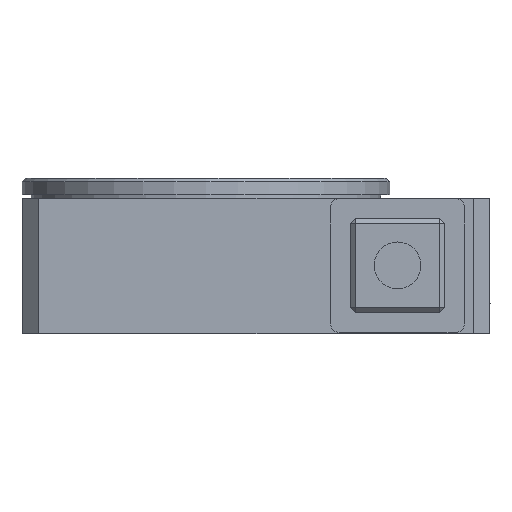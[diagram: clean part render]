
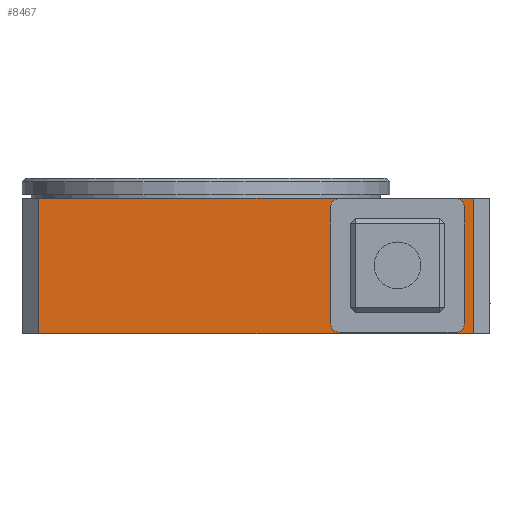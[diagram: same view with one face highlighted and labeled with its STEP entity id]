
A CAD part, front view. The second image highlights one B-rep face of the part: STEP entity #8467.
In plain terms, the highlighted planar face has unit normal (0, -1, 0).
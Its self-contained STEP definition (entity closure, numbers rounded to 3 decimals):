
#246 = EDGE_LOOP ( 'NONE', ( #8520, #11084, #10882, #2927, #10871, #4184, #8387, #12867 ) ) ;
#279 = CARTESIAN_POINT ( 'NONE',  ( 229.724, -176.879, 81. ) ) ;
#308 = CARTESIAN_POINT ( 'NONE',  ( 144.424, -176.879, 5.9 ) ) ;
#465 = DIRECTION ( 'NONE',  ( 0., 0., -1. ) ) ;
#529 = DIRECTION ( 'NONE',  ( 0., 1., 0. ) ) ;
#624 = AXIS2_PLACEMENT_3D ( 'NONE', #10790, #8812, #9809 ) ;
#981 = VERTEX_POINT ( 'NONE', #1900 ) ;
#1049 = CIRCLE ( 'NONE', #4071, 5. ) ;
#1201 = LINE ( 'NONE', #6272, #9982 ) ;
#1239 = LINE ( 'NONE', #2351, #10512 ) ;
#1596 = DIRECTION ( 'NONE',  ( 0., 0., 1. ) ) ;
#1661 = AXIS2_PLACEMENT_3D ( 'NONE', #9654, #2602, #1596 ) ;
#1775 = CARTESIAN_POINT ( 'NONE',  ( 224.424, -176.879, 75.9 ) ) ;
#1900 = CARTESIAN_POINT ( 'NONE',  ( -30.276, -176.879, 0. ) ) ;
#1911 = EDGE_CURVE ( 'NONE', #9959, #8205, #1049, .T. ) ;
#1984 = VECTOR ( 'NONE', #3556, 1000. ) ;
#2091 = EDGE_CURVE ( 'NONE', #9780, #9959, #3101, .T. ) ;
#2172 = CARTESIAN_POINT ( 'NONE',  ( 239.724, -176.879, 0. ) ) ;
#2263 = VERTEX_POINT ( 'NONE', #9229 ) ;
#2351 = CARTESIAN_POINT ( 'NONE',  ( 229.724, -176.879, 93. ) ) ;
#2412 = EDGE_CURVE ( 'NONE', #2428, #8202, #8283, .T. ) ;
#2428 = VERTEX_POINT ( 'NONE', #1775 ) ;
#2433 = LINE ( 'NONE', #8684, #4329 ) ;
#2461 = DIRECTION ( 'NONE',  ( 0., 0., 1. ) ) ;
#2602 = DIRECTION ( 'NONE',  ( 0., -1., 0. ) ) ;
#2678 = FACE_BOUND ( 'NONE', #246, .T. ) ;
#2752 = CIRCLE ( 'NONE', #624, 5. ) ;
#2772 = VECTOR ( 'NONE', #7291, 1000. ) ;
#2838 = EDGE_CURVE ( 'NONE', #8407, #3805, #6381, .T. ) ;
#2927 = ORIENTED_EDGE ( 'NONE', *, *, #2091, .F. ) ;
#3101 = LINE ( 'NONE', #4593, #10810 ) ;
#3197 = EDGE_CURVE ( 'NONE', #8407, #981, #1201, .T. ) ;
#3436 = LINE ( 'NONE', #7768, #12885 ) ;
#3556 = DIRECTION ( 'NONE',  ( 1., 0., 0. ) ) ;
#3586 = DIRECTION ( 'NONE',  ( 1., 0., 0. ) ) ;
#3695 = CARTESIAN_POINT ( 'NONE',  ( 219.424, -176.879, 75.9 ) ) ;
#3781 = EDGE_CURVE ( 'NONE', #8205, #7497, #2433, .T. ) ;
#3805 = VERTEX_POINT ( 'NONE', #279 ) ;
#3828 = ORIENTED_EDGE ( 'NONE', *, *, #5301, .F. ) ;
#3831 = CARTESIAN_POINT ( 'NONE',  ( 219.424, -176.879, 80.9 ) ) ;
#3947 = EDGE_CURVE ( 'NONE', #7497, #5759, #2752, .T. ) ;
#4071 = AXIS2_PLACEMENT_3D ( 'NONE', #9294, #4527, #2461 ) ;
#4184 = ORIENTED_EDGE ( 'NONE', *, *, #9237, .F. ) ;
#4300 = ORIENTED_EDGE ( 'NONE', *, *, #3197, .T. ) ;
#4329 = VECTOR ( 'NONE', #3586, 1000. ) ;
#4463 = CIRCLE ( 'NONE', #1661, 5. ) ;
#4527 = DIRECTION ( 'NONE',  ( 0., -1., 0. ) ) ;
#4593 = CARTESIAN_POINT ( 'NONE',  ( 144.424, -176.879, 93. ) ) ;
#4792 = DIRECTION ( 'NONE',  ( 0., -1., 0. ) ) ;
#4893 = CARTESIAN_POINT ( 'NONE',  ( 144.424, -176.879, 75.9 ) ) ;
#4945 = EDGE_CURVE ( 'NONE', #5732, #9780, #4463, .T. ) ;
#4971 = EDGE_CURVE ( 'NONE', #5759, #2428, #8553, .T. ) ;
#5301 = EDGE_CURVE ( 'NONE', #3805, #2263, #1239, .T. ) ;
#5732 = VERTEX_POINT ( 'NONE', #11343 ) ;
#5759 = VERTEX_POINT ( 'NONE', #9232 ) ;
#6272 = CARTESIAN_POINT ( 'NONE',  ( -30.276, -176.879, 93. ) ) ;
#6381 = LINE ( 'NONE', #6492, #1984 ) ;
#6385 = LINE ( 'NONE', #2172, #2772 ) ;
#6492 = CARTESIAN_POINT ( 'NONE',  ( -30.276, -176.879, 81. ) ) ;
#6629 = CARTESIAN_POINT ( 'NONE',  ( 224.424, -176.879, 93. ) ) ;
#7272 = CARTESIAN_POINT ( 'NONE',  ( -30.276, -176.879, 81. ) ) ;
#7291 = DIRECTION ( 'NONE',  ( -1., 0., 0. ) ) ;
#7366 = FACE_OUTER_BOUND ( 'NONE', #8691, .T. ) ;
#7497 = VERTEX_POINT ( 'NONE', #9990 ) ;
#7547 = DIRECTION ( 'NONE',  ( 0., 0., 1. ) ) ;
#7593 = DIRECTION ( 'NONE',  ( 0., 0., 1. ) ) ;
#7634 = ORIENTED_EDGE ( 'NONE', *, *, #2838, .F. ) ;
#7768 = CARTESIAN_POINT ( 'NONE',  ( -30.276, -176.879, 80.9 ) ) ;
#7773 = DIRECTION ( 'NONE',  ( 0., 0., 1. ) ) ;
#7822 = CARTESIAN_POINT ( 'NONE',  ( 149.424, -176.879, 0.9 ) ) ;
#7850 = AXIS2_PLACEMENT_3D ( 'NONE', #3695, #4792, #7773 ) ;
#8202 = VERTEX_POINT ( 'NONE', #3831 ) ;
#8205 = VERTEX_POINT ( 'NONE', #7822 ) ;
#8283 = CIRCLE ( 'NONE', #7850, 5. ) ;
#8387 = ORIENTED_EDGE ( 'NONE', *, *, #2412, .F. ) ;
#8407 = VERTEX_POINT ( 'NONE', #7272 ) ;
#8467 = ADVANCED_FACE ( 'NONE', ( #2678, #7366 ), #12581, .F. ) ;
#8520 = ORIENTED_EDGE ( 'NONE', *, *, #3947, .F. ) ;
#8553 = LINE ( 'NONE', #6629, #11051 ) ;
#8684 = CARTESIAN_POINT ( 'NONE',  ( -30.276, -176.879, 0.9 ) ) ;
#8691 = EDGE_LOOP ( 'NONE', ( #4300, #12030, #3828, #7634 ) ) ;
#8812 = DIRECTION ( 'NONE',  ( 0., -1., 0. ) ) ;
#9099 = AXIS2_PLACEMENT_3D ( 'NONE', #11469, #529, #7547 ) ;
#9229 = CARTESIAN_POINT ( 'NONE',  ( 229.724, -176.879, 0. ) ) ;
#9232 = CARTESIAN_POINT ( 'NONE',  ( 224.424, -176.879, 5.9 ) ) ;
#9237 = EDGE_CURVE ( 'NONE', #8202, #5732, #3436, .T. ) ;
#9294 = CARTESIAN_POINT ( 'NONE',  ( 149.424, -176.879, 5.9 ) ) ;
#9654 = CARTESIAN_POINT ( 'NONE',  ( 149.424, -176.879, 75.9 ) ) ;
#9780 = VERTEX_POINT ( 'NONE', #4893 ) ;
#9809 = DIRECTION ( 'NONE',  ( 0., 0., 1. ) ) ;
#9959 = VERTEX_POINT ( 'NONE', #308 ) ;
#9982 = VECTOR ( 'NONE', #10216, 1000. ) ;
#9990 = CARTESIAN_POINT ( 'NONE',  ( 219.424, -176.879, 0.9 ) ) ;
#10216 = DIRECTION ( 'NONE',  ( 0., 0., -1. ) ) ;
#10479 = DIRECTION ( 'NONE',  ( 0., 0., -1. ) ) ;
#10512 = VECTOR ( 'NONE', #465, 1000. ) ;
#10646 = DIRECTION ( 'NONE',  ( -1., 0., 0. ) ) ;
#10790 = CARTESIAN_POINT ( 'NONE',  ( 219.424, -176.879, 5.9 ) ) ;
#10810 = VECTOR ( 'NONE', #10479, 1000. ) ;
#10871 = ORIENTED_EDGE ( 'NONE', *, *, #4945, .F. ) ;
#10882 = ORIENTED_EDGE ( 'NONE', *, *, #1911, .F. ) ;
#11051 = VECTOR ( 'NONE', #7593, 1000. ) ;
#11084 = ORIENTED_EDGE ( 'NONE', *, *, #3781, .F. ) ;
#11343 = CARTESIAN_POINT ( 'NONE',  ( 149.424, -176.879, 80.9 ) ) ;
#11469 = CARTESIAN_POINT ( 'NONE',  ( -30.276, -176.879, 93. ) ) ;
#11792 = EDGE_CURVE ( 'NONE', #2263, #981, #6385, .T. ) ;
#12030 = ORIENTED_EDGE ( 'NONE', *, *, #11792, .F. ) ;
#12581 = PLANE ( 'NONE',  #9099 ) ;
#12867 = ORIENTED_EDGE ( 'NONE', *, *, #4971, .F. ) ;
#12885 = VECTOR ( 'NONE', #10646, 1000. ) ;
